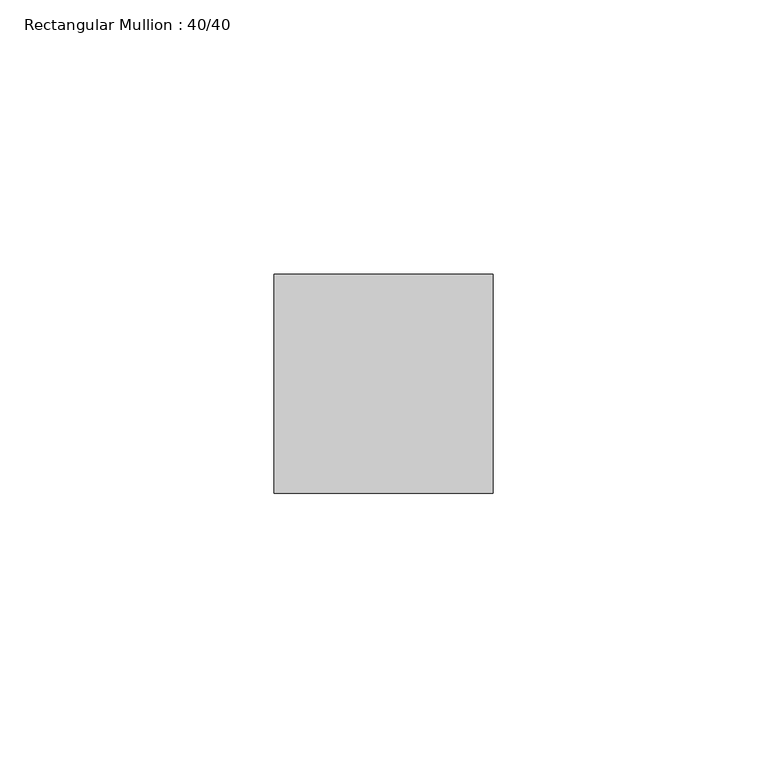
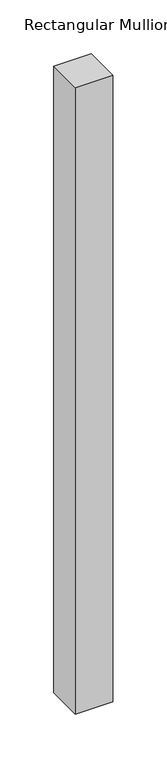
"""IFC4 building model written with IfcOpenShell, lengths in millimetres: member geometry, Rectangular Mullion : 40/40."""

from ifc_helpers import new_model, si_unit, frame, origin, place, context, project, spatial, polyline, outline, extrude, source, transform, mapped, element, save


def rectangular_mullion_40_40_c2750e26(model_context):
    return source(origin(), model_context, "Body", "SweptSolid", [
        extrude(outline(polyline([(0.0, 20.0), (0.0, -20.0), (-40.0, -20.0), (-40.0, 20.0), (0.0, 20.0)])), frame((0.0, 0.0, -710.0), z_axis=(0.0, 0.0, 1.0), x_axis=(1.0, 0.0, 0.0)), (0.0, 0.0, 1.0), 710.0),
    ])


if __name__ == "__main__":
    model = new_model("IFC4")
    model_context = context("Model", 3, world=origin())
    ifc_project = project(units=[si_unit("LENGTHUNIT", "METRE", prefix="MILLI")], contexts=[model_context])
    site = spatial("IfcSite", under=ifc_project)
    building = spatial("IfcBuilding", under=site)
    placement = place(None, origin())
    rectangular_mullion_40_40_shape = rectangular_mullion_40_40_c2750e26(model_context)
    element("IfcMember", 1, ObjectType="Rectangular Mullion : 40/40", at=placement, inside=building, context=model_context, shape_type="MappedRepresentation", body=[
        mapped(rectangular_mullion_40_40_shape, transform((0.0, 0.0, 0.0), x_axis=(1.0, 0.0, 0.0), y_axis=(0.0, 1.0, 0.0), z_axis=(0.0, 0.0, 1.0))),
    ])
    save(model, "model.ifc")
